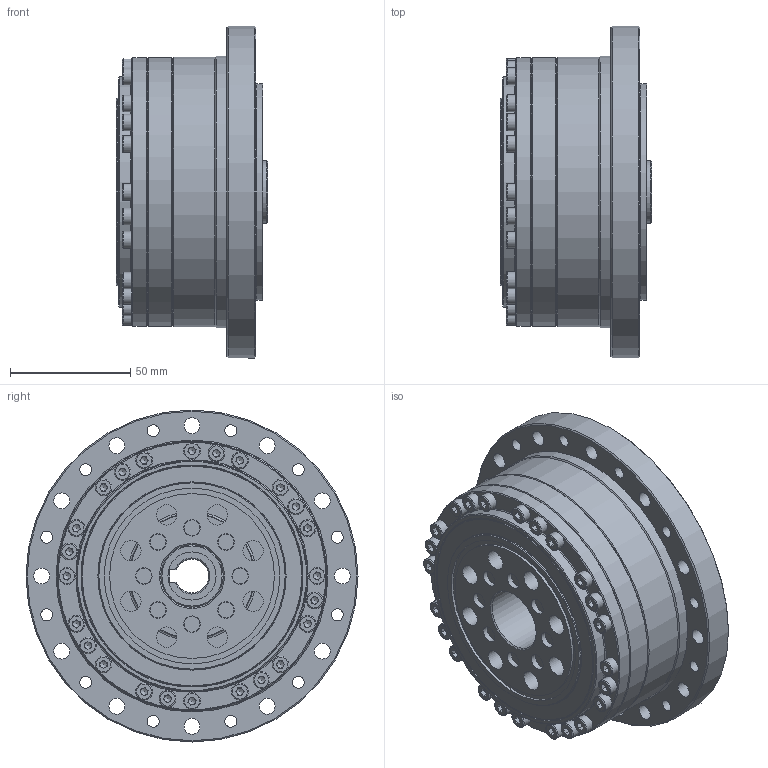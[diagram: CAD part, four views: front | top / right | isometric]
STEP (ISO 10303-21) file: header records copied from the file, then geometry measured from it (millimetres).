
FILE_DESCRIPTION (( 'STEP AP203' ), '1' );
FILE_NAME ('LCSG-32-XXX-C-II-D1.STEP', '2025-07-10T05:03:19', ( '' ), ( '' ), 'SwSTEP 2.0', 'SolidWorks 2023', '' );
FILE_SCHEMA (( 'CONFIG_CONTROL_DESIGN' ));
Length unit declared in the file: millimetre
Products named in the file (1): LCSG-32-XXX-C-II-D1
Bounding box: 63 x 138 x 138 mm (x, y, z)
Volume: 444299.7 mm3; surface area: 227256.1 mm2
Topology: 70 solids, 70 shells, 1171 faces, 2700 edges, 1686 vertices
Faces by surface type: plane 624, cylinder 305, cone 130, torus 89, sphere 23
Full cylindrical faces by diameter (mm): 2 x2, 3.3 x24, 4 x24, 4.5 x40, 5 x12, 6.6 x12, 6.8 x8, 7 x24, 8 x8, 8.5 x8, 9 x16, 13 x8, 20 x1, 23.9 x1, 26 x5, 26.5 x2, 27 x1, 34.5 x2, 52 x1, 53 x2, 54 x1, 55 x2, 59 x2, 62.5 x1, 63 x2, 63.52 x1, 68.5 x1, 69 x1, 72.8 x1, 73 x1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
Entity records: 29621 total; most frequent: DIRECTION 5456, CARTESIAN_POINT 4826, ORIENTED_EDGE 4116, AXIS2_PLACEMENT_3D 2250, EDGE_CURVE 2058, EDGE_LOOP 1908, VERTEX_POINT 1524, FACE_OUTER_BOUND 1487
